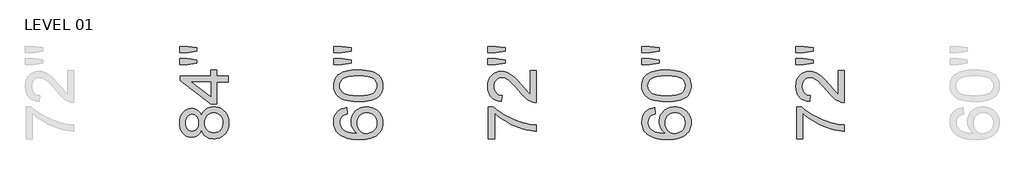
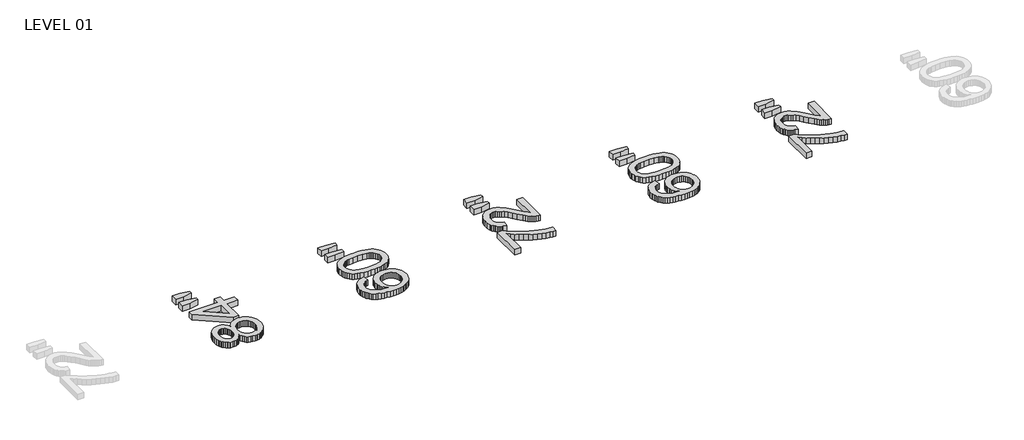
# One storey, part 2 of 3: 5 proxies.
"""IFC4 building model written with IfcOpenShell, lengths in millimetres."""

from ifc_helpers import new_model, si_unit, origin, origin_with_axes, place, context, project, spatial, polyline, outline, extrude, element, save

model = new_model("IFC4")

# Units and contexts
model_context = context("Model", 3, world=origin())
ifc_project = project(units=[si_unit("LENGTHUNIT", "METRE", prefix="MILLI")], contexts=[model_context])

# Site, building, storey
site = spatial("IfcSite", under=ifc_project)
building = spatial("IfcBuilding", under=site)
storey = spatial("IfcBuildingStorey", under=building, Name="LEVEL 01", Elevation=0.0)

# Proxies
placement = place(None, origin())
element("IfcBuildingElementProxy", 1, Name="48\" Arial", ObjectType="48\" Arial", at=placement, inside=storey, context=model_context, shape_type="SweptSolid", body=[
    extrude(outline(polyline([(-15966.6410778, -45184.9034966), (-15984.6653086, -45228.0682322), (-16006.2064624, -45265.2432081), (-16031.2645393, -45296.4284245), (-16059.8395393, -45321.6238812), (-16091.6567028, -45341.049386), (-16126.4412701, -45354.9247466), (-16164.1932413, -45363.2499629), (-16204.9126163, -45366.025035), (-16266.1107413, -45359.9803235), (-16294.8002244, -45352.4244341), (-16322.2166547, -45341.8461889), (-16348.3600321, -45328.2455879), (-16373.2303566, -45311.6226312), (-16419.151847, -45269.3096504), (-16439.4840586, -45244.1279317), (-16457.1053086, -45216.9404677), (-16472.015597, -45187.7472586), (-16484.214924, -45156.5483043), (-16500.4806932, -45088.13316), (-16505.9026163, -45011.695035), (-16500.352472, -44934.8905639), (-16483.7020393, -44865.962535), (-16471.2142148, -44834.4521865), (-16455.9513182, -44804.9109485), (-16437.9133494, -44777.3388211), (-16417.1003086, -44751.7358043), (-16370.2812701, -44708.6534966), (-16345.0583374, -44691.7283043), (-16318.6264624, -44677.8804197), (-16290.9856451, -44667.1098427), (-16262.1358855, -44659.4165735), (-16232.0771836, -44654.800612), (-16200.8095393, -44653.2619581), (-16161.528073, -44656.0003956), (-16124.8659816, -44664.2157081), (-16090.8232653, -44677.9078956), (-16059.399924, -44697.0769581), (-16031.0172557, -44721.8144822), (-16006.0965586, -44752.2120543), (-15984.6378326, -44788.2696745), (-15966.6410778, -44829.9873427), (-15945.6586018, -44780.6679918), (-15919.0527124, -44737.6314774), (-15886.8234095, -44700.8777995), (-15848.9706932, -44670.4069581), (-15806.3371595, -44646.4937129), (-15759.7654047, -44629.4128235), (-15709.2554288, -44619.1642899), (-15654.8072316, -44615.748112), (-15616.6064865, -44617.4424629), (-15579.9627124, -44622.5255158), (-15544.8759095, -44630.9972706), (-15511.3460778, -44642.8577274), (-15479.3732172, -44658.106886), (-15448.9573278, -44676.7447466), (-15420.0984095, -44698.7713091), (-15392.7964624, -44724.1865735), (-15367.9307172, -44752.3677514), (-15346.3804047, -44782.6920543), (-15328.1455249, -44815.1594822), (-15313.2260778, -44849.770035), (-15301.6220634, -44886.5237129), (-15293.3334816, -44925.4205158), (-15288.3603326, -44966.4604437), (-15286.7026163, -45009.6434966), (-15288.3672016, -45052.8265495), (-15293.3609576, -45093.8664774), (-15301.6838843, -45132.7632802), (-15313.3359816, -45169.5169581), (-15328.3172497, -45204.127511), (-15346.6276884, -45236.5949389), (-15368.2672978, -45266.9192418), (-15393.2360778, -45295.1004197), (-15420.6914324, -45320.5156841), (-15449.7907653, -45342.5422466), (-15480.5340766, -45361.1801072), (-15512.9213663, -45376.4292658), (-15546.9526343, -45388.2897225), (-15582.6278807, -45396.7614774), (-15619.9471054, -45401.8445302), (-15658.9103086, -45403.5388812), (-15715.8405009, -45399.9853235), (-15767.934924, -45389.3246504), (-15815.1935778, -45371.556862), (-15857.6164624, -45346.6819581), (-15894.4342509, -45315.2494581), (-15924.8776163, -45277.8088812), (-15948.9465586, -45234.3602274), (-15966.6410778, -45184.9034966)]), holes=[polyline([(-16200.5164624, -45215.9696504), (-16166.1165586, -45212.6450591), (-16135.0137701, -45202.671285), (-16107.208097, -45186.0483283), (-16082.6995393, -45162.7761889), (-16062.6970393, -45133.1479437), (-16048.4095393, -45097.4566697), (-16039.8370393, -45055.7023668), (-16036.9795393, -45007.885035), (-16039.818722, -44961.2491697), (-16048.3362701, -44920.4015735), (-16062.5321836, -44885.3422466), (-16082.4064624, -44856.0711889), (-16106.4021355, -44832.9913812), (-16132.9622316, -44816.5058043), (-16162.0867509, -44806.6144581), (-16193.7756932, -44803.3173427), (-16226.7010538, -44806.724362), (-16256.8971355, -44816.9454197), (-16284.3639384, -44833.9805158), (-16309.1014624, -44857.8296504), (-16329.5527365, -44887.7601312), (-16344.1607893, -44923.0392658), (-16352.9256211, -44963.6670543), (-16355.8472316, -45009.6434966), (-16352.9897316, -45055.9771264), (-16344.4172316, -45096.7972466), (-16330.1297316, -45132.1038572), (-16310.1272316, -45161.8969581), (-16286.1315586, -45185.553761), (-16259.8645393, -45202.4514774), (-16231.326174, -45212.5901072), (-16200.5164624, -45215.9696504)]), polyline([(-15664.1856932, -45253.4834966), (-15606.7792509, -45247.2189774), (-15551.2045393, -45228.4254197), (-15525.4229288, -45213.4876552), (-15502.7369432, -45193.7324389), (-15483.1465826, -45169.1597706), (-15466.651847, -45139.7696504), (-15453.5732893, -45107.714362), (-15444.2314624, -45075.1461889), (-15438.6263663, -45042.0651312), (-15436.7580009, -45008.4711889), (-15440.6870634, -44954.2153235), (-15452.4742509, -44906.3338812), (-15472.1195634, -44864.826862), (-15499.6230009, -44829.6942658), (-15533.1894672, -44801.7420543), (-15571.0238663, -44781.7761889), (-15613.126198, -44769.7966697), (-15659.4964624, -44765.8034966), (-15706.6085778, -44769.9248908), (-15749.4710778, -44782.2890735), (-15788.0839624, -44802.8960447), (-15822.4472316, -44831.7458043), (-15850.6558855, -44867.8309004), (-15870.804924, -44910.1438812), (-15882.894347, -44958.6847466), (-15886.9241547, -45013.4534966), (-15882.949299, -45066.9125591), (-15871.0247316, -45114.1620543), (-15851.1504528, -45155.2019822), (-15823.3264624, -45190.0323427), (-15789.5310297, -45217.7922225), (-15751.742424, -45237.6207081), (-15709.9606451, -45249.5177995), (-15664.1856932, -45253.4834966)])]), origin_with_axes(), (0.0, 0.0, 1.0), 152.4),
    extrude(outline(polyline([(-15305.4595393, -43996.7696504), (-15586.8133855, -43996.7696504), (-15586.8133855, -44540.7204197), (-15736.8687701, -44540.7204197), (-16487.1456932, -43959.2558043), (-16487.1456932, -43846.7142658), (-15736.8687701, -43846.7142658), (-15736.8687701, -43696.6588812), (-15586.8133855, -43696.6588812), (-15586.8133855, -43846.7142658), (-15305.4595393, -43846.7142658), (-15305.4595393, -43996.7696504)]), holes=[polyline([(-15736.8687701, -43996.7696504), (-16200.5164624, -43996.7696504), (-15736.8687701, -44356.0819581), (-15736.8687701, -43996.7696504)])]), origin_with_axes(), (0.0, 0.0, 1.0), 152.4),
    extrude(outline(polyline([(-16074.4933855, -43229.4942658), (-16306.3172316, -43265.2496504), (-16505.9026163, -43265.2496504), (-16505.9026163, -43115.1942658), (-16306.3172316, -43115.1942658), (-16074.4933855, -43150.3634966), (-16074.4933855, -43229.4942658)])), origin_with_axes(), (0.0, 0.0, 1.0), 152.4),
    extrude(outline(polyline([(-16074.4933855, -43528.7258043), (-16306.3172316, -43565.3604197), (-16505.9026163, -43565.3604197), (-16505.9026163, -43415.305035), (-16306.3172316, -43415.305035), (-16074.4933855, -43448.1296504), (-16074.4933855, -43528.7258043)])), origin_with_axes(), (0.0, 0.0, 1.0), 152.4),
])
element("IfcBuildingElementProxy", 2, Name="48\" Arial", ObjectType="48\" Arial", at=placement, inside=storey, context=model_context, shape_type="SweptSolid", body=[
    extrude(outline(polyline([(-12377.034924, -44634.505035), (-12358.2780009, -44784.5604197), (-12398.411222, -44795.5874389), (-12432.6462701, -44808.7392658), (-12460.9831451, -44824.0159004), (-12483.421847, -44841.4173427), (-12510.7329528, -44873.6741216), (-12530.2408855, -44909.4844581), (-12541.9456451, -44948.8483524), (-12545.8472316, -44991.7658043), (-12543.5758855, -45027.1548427), (-12536.761847, -45061.518112), (-12525.4051163, -45094.855612), (-12509.5056932, -45127.1673427), (-12483.5042749, -45156.6490495), (-12452.0992509, -45183.5480158), (-12415.2906211, -45207.8642418), (-12373.0783855, -45229.5977274), (-12322.6783134, -45247.5944822), (-12261.306174, -45260.7005158), (-12188.9619672, -45268.9158283), (-12105.6456932, -45272.2404197), (-12143.3518711, -45243.6379437), (-12175.8742509, -45212.0497466), (-12203.2128326, -45177.4758283), (-12225.3676163, -45139.9161889), (-12242.4851403, -45100.3782802), (-12254.7119432, -45059.8695543), (-12262.0480249, -45018.390011), (-12264.4933855, -44975.9396504), (-12262.8219312, -44939.1951312), (-12257.8075682, -44903.8427274), (-12249.4502966, -44869.8824389), (-12237.7501163, -44837.3142658), (-12222.7070273, -44806.1382081), (-12204.3210297, -44776.3542658), (-12182.5921235, -44747.9624389), (-12157.5203086, -44720.9627274), (-12129.8016427, -44696.3030519), (-12100.1321836, -44674.9313331), (-12068.5119312, -44656.8475711), (-12034.9408855, -44642.0517658), (-11999.4190466, -44630.5439173), (-11961.9464143, -44622.3240254), (-11922.5229889, -44617.3920903), (-11881.1487701, -44615.748112), (-11826.4441307, -44618.843737), (-11773.6994432, -44628.130612), (-11722.9147076, -44643.608737), (-11674.089924, -44665.278112), (-11629.0476643, -44692.36941), (-11589.6105009, -44724.1133043), (-11555.7784336, -44760.5097947), (-11527.5514624, -44801.5588812), (-11505.3050922, -44846.3813331), (-11489.4148278, -44894.0979197), (-11479.8806691, -44944.7086408), (-11476.7026163, -44998.2134966), (-11478.8091066, -45044.0227935), (-11485.1285778, -45087.6660687), (-11495.6610297, -45129.1433223), (-11510.4064624, -45168.4545543), (-11529.3648759, -45205.5997646), (-11552.5362701, -45240.5789533), (-11579.9206451, -45273.3921204), (-11611.5180009, -45304.0392658), (-11647.9511259, -45331.755642), (-11689.8428086, -45355.7765014), (-11737.193049, -45376.1018439), (-11790.001847, -45392.7316697), (-11848.2692028, -45405.6659786), (-11911.9951163, -45414.9047706), (-11981.1795874, -45420.4480459), (-12055.8226163, -45422.2958043), (-12139.3999119, -45420.2442658), (-12217.0698759, -45414.0896504), (-12288.8325081, -45403.8319581), (-12354.6878086, -45389.4711889), (-12414.6357773, -45371.0073427), (-12468.6764143, -45348.4404197), (-12516.8097196, -45321.7704197), (-12559.0356932, -45290.9973427), (-12591.1138783, -45261.1080759), (-12618.914972, -45228.7368139), (-12642.4389744, -45193.8835567), (-12661.6858855, -45156.5483043), (-12676.6557052, -45116.7310567), (-12687.3484336, -45074.4318139), (-12693.7640706, -45029.6505759), (-12695.9026163, -44982.3873427), (-12690.6089143, -44913.2761408), (-12674.7278086, -44850.722535), (-12648.259299, -44794.7265254), (-12611.2033855, -44745.288112), (-12564.8056451, -44703.7444581), (-12510.3116547, -44671.4327274), (-12447.7214143, -44648.3529197), (-12377.034924, -44634.505035)]), holes=[polyline([(-11883.4933855, -45272.2404197), (-11849.8719672, -45270.0698187), (-11817.0015586, -45263.5580158), (-11784.8821595, -45252.705011), (-11753.5137701, -45237.5108043), (-11724.3709336, -45218.7172466), (-11698.9281932, -45197.0661889), (-11677.185549, -45172.5576312), (-11659.1430009, -45145.1915735), (-11644.9745634, -45115.1420302), (-11634.8542509, -45082.5830158), (-11628.7820634, -45047.5145302), (-11626.7580009, -45009.9365735), (-11630.9526643, -44957.7780399), (-11643.5366547, -44910.9132081), (-11664.509972, -44869.3420783), (-11693.8726163, -44833.0646504), (-11730.4339624, -44803.6378956), (-11773.0033855, -44782.618785), (-11821.5808855, -44770.0073187), (-11876.1664624, -44765.8034966), (-11928.618073, -44769.9523668), (-11975.1898278, -44782.3989774), (-12015.8817268, -44803.1433283), (-12050.6937701, -44832.1854197), (-12078.5818711, -44868.5727514), (-12098.5019432, -44911.3528235), (-12110.4539865, -44960.525636), (-12114.4380009, -45016.0911889), (-12110.4539865, -45067.5536649), (-12098.5019432, -45114.9680158), (-12078.5818711, -45158.3342418), (-12050.6937701, -45197.6523427), (-12016.3396595, -45230.2846264), (-11977.0215586, -45253.5934004), (-11932.7394672, -45267.5786649), (-11883.4933855, -45272.2404197)])]), origin_with_axes(), (0.0, 0.0, 1.0), 152.4),
    extrude(outline(polyline([(-12086.0095393, -44484.4496504), (-12186.9470634, -44481.6928956), (-12278.158097, -44473.4226312), (-12359.6426403, -44459.6388572), (-12431.4006932, -44440.3415735), (-12494.0184095, -44415.6132081), (-12548.0819432, -44385.5361889), (-12593.5912941, -44350.1105158), (-12630.5464624, -44309.3361889), (-12659.1397797, -44263.0758283), (-12679.5635778, -44211.1920543), (-12691.8178566, -44153.6848668), (-12695.9026163, -44090.5542658), (-12693.4847316, -44043.1124389), (-12686.2310778, -43998.0884966), (-12674.1416547, -43955.4824389), (-12657.2164624, -43915.2942658), (-12635.7394191, -43878.4947947), (-12609.9944432, -43846.0548427), (-12579.9815345, -43817.97441), (-12545.7006932, -43794.2534966), (-12507.289299, -43773.7014774), (-12464.8847316, -43755.1277274), (-12368.0960778, -43723.915035), (-12311.1750441, -43711.9904677), (-12245.1869432, -43703.4729197), (-12170.1317749, -43698.3623908), (-12086.0095393, -43696.6588812), (-11985.7131211, -43699.38816), (-11894.9600201, -43707.5759966), (-11813.7502365, -43721.2223908), (-11742.0837701, -43740.3273427), (-11679.4385778, -43764.8633764), (-11625.2926163, -43794.8030158), (-11579.6458855, -43830.146261), (-11542.4983855, -43870.893112), (-11513.7127365, -43917.2084245), (-11493.1515586, -43969.2570543), (-11480.8148518, -44027.0390014), (-11476.7026163, -44090.5542658), (-11478.4885538, -44133.0504197), (-11483.8463663, -44173.2019581), (-11492.7760538, -44211.0088812), (-11505.2776163, -44246.4711889), (-11521.3510538, -44279.5888812), (-11540.9963663, -44310.3619581), (-11564.2135538, -44338.7904197), (-11591.0026163, -44364.8742658), (-11633.4209216, -44392.8997466), (-11681.3985297, -44417.1884966), (-11734.9354408, -44437.7405158), (-11794.0316547, -44454.5558043), (-11858.6871716, -44467.634362), (-11928.9019913, -44476.9761889), (-12004.6761139, -44482.581285), (-12086.0095393, -44484.4496504)]), holes=[polyline([(-12086.3026163, -44334.3942658), (-11955.8559095, -44329.998112), (-11850.2657893, -44316.8096504), (-11806.7919492, -44306.9183043), (-11769.5322557, -44294.8288812), (-11738.4867088, -44280.5413812), (-11713.6553086, -44264.0558043), (-11675.6377365, -44226.835035), (-11648.4823278, -44185.5111889), (-11632.1890826, -44140.0842658), (-11626.7580009, -44090.5542658), (-11632.2073999, -44041.0242658), (-11648.555597, -43995.5973427), (-11675.8025922, -43954.2734966), (-11713.9483855, -43917.0527274), (-11738.839317, -43900.5671504), (-11769.9169191, -43886.2796504), (-11807.181192, -43874.1902274), (-11850.6321355, -43864.2988812), (-11956.0940345, -43851.1104197), (-12086.3026163, -43846.7142658), (-12213.2965105, -43850.9638812), (-12317.027424, -43863.7127274), (-12360.1692629, -43873.274362), (-12397.4953566, -43884.9608043), (-12429.0057052, -43898.7720543), (-12454.7003086, -43914.708112), (-12494.5770874, -43951.3060927), (-12523.0605009, -43993.1061889), (-12540.150549, -44040.1084004), (-12545.8472316, -44092.3127274), (-12540.8282893, -44141.586285), (-12525.7714624, -44186.2438812), (-12500.6767509, -44226.2855158), (-12465.5441547, -44261.7111889), (-12437.1156932, -44278.746285), (-12403.2653086, -44293.510035), (-12363.9930009, -44306.0024389), (-12319.2987701, -44316.2234966), (-12213.6445393, -44329.8515735), (-12086.3026163, -44334.3942658)])]), origin_with_axes(), (0.0, 0.0, 1.0), 152.4),
    extrude(outline(polyline([(-12264.4933855, -43229.4942658), (-12496.3172316, -43265.2496504), (-12695.9026163, -43265.2496504), (-12695.9026163, -43115.1942658), (-12496.3172316, -43115.1942658), (-12264.4933855, -43150.3634966), (-12264.4933855, -43229.4942658)])), origin_with_axes(), (0.0, 0.0, 1.0), 152.4),
    extrude(outline(polyline([(-12264.4933855, -43528.7258043), (-12496.3172316, -43565.3604197), (-12695.9026163, -43565.3604197), (-12695.9026163, -43415.305035), (-12496.3172316, -43415.305035), (-12264.4933855, -43448.1296504), (-12264.4933855, -43528.7258043)])), origin_with_axes(), (0.0, 0.0, 1.0), 152.4),
])
element("IfcBuildingElementProxy", 3, Name="48\" Arial", ObjectType="48\" Arial", at=placement, inside=storey, context=model_context, shape_type="SweptSolid", body=[
    extrude(outline(polyline([(-8717.0903086, -45403.5388812), (-8867.1456932, -45403.5388812), (-8867.1456932, -44615.748112), (-8745.811847, -44615.748112), (-8679.5856211, -44672.0280399), (-8603.706174, -44728.0332081), (-8518.1735057, -44783.7636168), (-8422.9876163, -44839.2192658), (-8322.2698999, -44891.3961168), (-8220.1417509, -44937.2901312), (-8116.6031691, -44976.9013091), (-8011.6541547, -45010.2296504), (-7935.4358374, -45030.085612), (-7855.6639624, -45045.985035), (-7772.3385297, -45057.9279197), (-7685.4595393, -45065.9142658), (-7685.4595393, -45215.9696504), (-7759.1500682, -45211.2529437), (-7840.1308855, -45199.7405158), (-7928.4019913, -45181.4323668), (-8023.9633855, -45156.3284966), (-8122.2815345, -45124.7219822), (-8218.8229047, -45086.9059004), (-8313.5874961, -45042.8802514), (-8406.5753086, -44992.645035), (-8495.0570634, -44938.4624389), (-8576.3034816, -44882.5946504), (-8650.3145634, -44825.0416697), (-8717.0903086, -44765.8034966), (-8717.0903086, -45403.5388812)])), origin_with_axes(), (0.0, 0.0, 1.0), 152.4),
    extrude(outline(polyline([(-7835.514924, -43715.4158043), (-7685.4595393, -43715.4158043), (-7685.4595393, -44503.2065735), (-7738.2866547, -44499.9094581), (-7788.9156932, -44487.0873427), (-7829.6442268, -44470.729987), (-7869.7682893, -44450.0863812), (-7909.2878807, -44425.1565254), (-7948.2030009, -44395.9404197), (-7988.0339865, -44360.6796024), (-8030.301174, -44317.615612), (-8122.1441547, -44208.078112), (-8198.7654528, -44119.019362), (-8265.9716547, -44046.153112), (-8323.7627605, -43989.479362), (-8372.1387701, -43948.998112), (-8415.5141547, -43920.661237), (-8458.3033855, -43900.420612), (-8500.5064624, -43888.276237), (-8542.1233855, -43884.228112), (-8581.2766307, -43888.0472706), (-8617.2609816, -43899.5047466), (-8650.0764384, -43918.6005399), (-8679.7230009, -43945.3346504), (-8704.2773518, -43978.2233764), (-8721.816174, -44015.7830158), (-8732.3394672, -44058.0135687), (-8735.8472316, -44104.915035), (-8732.4218951, -44154.3259725), (-8722.1458855, -44198.5164774), (-8705.0192028, -44237.4865495), (-8681.041847, -44271.2361889), (-8651.0197797, -44298.538136), (-8615.7589624, -44318.1651312), (-8575.2593951, -44330.1171745), (-8529.5210778, -44334.3942658), (-8548.2780009, -44484.4496504), (-8625.7418951, -44471.5451072), (-8660.8058014, -44461.1294281), (-8693.424347, -44448.0714774), (-8723.5975321, -44432.371255), (-8751.3253566, -44414.028761), (-8776.6078206, -44393.0439954), (-8799.444924, -44369.4169581), (-8819.7084456, -44343.4040915), (-8837.2701643, -44315.2618379), (-8852.1300802, -44284.9901973), (-8864.2881932, -44252.5891697), (-8880.4990105, -44181.3989533), (-8885.9026163, -44101.6911889), (-8879.8945393, -44021.2690495), (-8872.3844432, -43984.3757021), (-8861.8703086, -43949.6941697), (-8848.3521355, -43917.2244521), (-8831.829924, -43886.9665495), (-8812.303674, -43858.9204617), (-8789.7733855, -43833.0861889), (-8765.0175441, -43809.9033463), (-8738.8146355, -43789.8115495), (-8711.1646595, -43772.8107983), (-8682.0676163, -43758.9010927), (-8651.5235057, -43748.0824329), (-8619.5323278, -43740.3548187), (-8586.0940826, -43735.7182502), (-8551.2087701, -43734.1727274), (-8515.1694672, -43735.8396024), (-8479.4415586, -43740.8402274), (-8444.0250441, -43749.1746024), (-8408.919924, -43760.8427274), (-8373.5125682, -43776.3849629), (-8337.189347, -43796.3416697), (-8261.7953086, -43849.4984966), (-8219.9860538, -43886.1789052), (-8171.7840586, -43934.234362), (-8056.201847, -44064.4704197), (-7911.8614624, -44237.0927274), (-7873.798097, -44274.5333043), (-7835.514924, -44304.7934966), (-7835.514924, -43715.4158043)])), origin_with_axes(), (0.0, 0.0, 1.0), 152.4),
    extrude(outline(polyline([(-8454.4933855, -43528.7258043), (-8686.3172316, -43565.3604197), (-8885.9026163, -43565.3604197), (-8885.9026163, -43415.305035), (-8686.3172316, -43415.305035), (-8454.4933855, -43448.1296504), (-8454.4933855, -43528.7258043)])), origin_with_axes(), (0.0, 0.0, 1.0), 152.4),
    extrude(outline(polyline([(-8454.4933855, -43229.4942658), (-8686.3172316, -43265.2496504), (-8885.9026163, -43265.2496504), (-8885.9026163, -43115.1942658), (-8686.3172316, -43115.1942658), (-8454.4933855, -43150.3634966), (-8454.4933855, -43229.4942658)])), origin_with_axes(), (0.0, 0.0, 1.0), 152.4),
])
element("IfcBuildingElementProxy", 4, Name="48\" Arial", ObjectType="48\" Arial", at=placement, inside=storey, context=model_context, shape_type="SweptSolid", body=[
    extrude(outline(polyline([(-4757.034924, -44634.505035), (-4738.2780009, -44784.5604197), (-4778.411222, -44795.5874389), (-4812.6462701, -44808.7392658), (-4840.9831451, -44824.0159004), (-4863.421847, -44841.4173427), (-4890.7329528, -44873.6741216), (-4910.2408855, -44909.4844581), (-4921.9456451, -44948.8483524), (-4925.8472316, -44991.7658043), (-4923.5758855, -45027.1548427), (-4916.761847, -45061.518112), (-4905.4051163, -45094.855612), (-4889.5056932, -45127.1673427), (-4863.5042749, -45156.6490495), (-4832.0992509, -45183.5480158), (-4795.2906211, -45207.8642418), (-4753.0783855, -45229.5977274), (-4702.6783134, -45247.5944822), (-4641.306174, -45260.7005158), (-4568.9619672, -45268.9158283), (-4485.6456932, -45272.2404197), (-4523.3518711, -45243.6379437), (-4555.8742509, -45212.0497466), (-4583.2128326, -45177.4758283), (-4605.3676163, -45139.9161889), (-4622.4851403, -45100.3782802), (-4634.7119432, -45059.8695543), (-4642.0480249, -45018.390011), (-4644.4933855, -44975.9396504), (-4642.8219312, -44939.1951312), (-4637.8075682, -44903.8427274), (-4629.4502966, -44869.8824389), (-4617.7501163, -44837.3142658), (-4602.7070273, -44806.1382081), (-4584.3210297, -44776.3542658), (-4562.5921235, -44747.9624389), (-4537.5203086, -44720.9627274), (-4509.8016427, -44696.3030519), (-4480.1321836, -44674.9313331), (-4448.5119312, -44656.8475711), (-4414.9408855, -44642.0517658), (-4379.4190466, -44630.5439173), (-4341.9464143, -44622.3240254), (-4302.5229889, -44617.3920903), (-4261.1487701, -44615.748112), (-4206.4441307, -44618.843737), (-4153.6994432, -44628.130612), (-4102.9147076, -44643.608737), (-4054.089924, -44665.278112), (-4009.0476643, -44692.36941), (-3969.6105009, -44724.1133043), (-3935.7784336, -44760.5097947), (-3907.5514624, -44801.5588812), (-3885.3050922, -44846.3813331), (-3869.4148278, -44894.0979197), (-3859.8806691, -44944.7086408), (-3856.7026163, -44998.2134966), (-3858.8091066, -45044.0227935), (-3865.1285778, -45087.6660687), (-3875.6610297, -45129.1433223), (-3890.4064624, -45168.4545543), (-3909.3648759, -45205.5997646), (-3932.5362701, -45240.5789533), (-3959.9206451, -45273.3921204), (-3991.5180009, -45304.0392658), (-4027.9511259, -45331.755642), (-4069.8428086, -45355.7765014), (-4117.193049, -45376.1018439), (-4170.001847, -45392.7316697), (-4228.2692028, -45405.6659786), (-4291.9951163, -45414.9047706), (-4361.1795874, -45420.4480459), (-4435.8226163, -45422.2958043), (-4519.3999119, -45420.2442658), (-4597.0698759, -45414.0896504), (-4668.8325081, -45403.8319581), (-4734.6878086, -45389.4711889), (-4794.6357773, -45371.0073427), (-4848.6764143, -45348.4404197), (-4896.8097196, -45321.7704197), (-4939.0356932, -45290.9973427), (-4971.1138783, -45261.1080759), (-4998.914972, -45228.7368139), (-5022.4389744, -45193.8835567), (-5041.6858855, -45156.5483043), (-5056.6557052, -45116.7310567), (-5067.3484336, -45074.4318139), (-5073.7640706, -45029.6505759), (-5075.9026163, -44982.3873427), (-5070.6089143, -44913.2761408), (-5054.7278086, -44850.722535), (-5028.259299, -44794.7265254), (-4991.2033855, -44745.288112), (-4944.8056451, -44703.7444581), (-4890.3116547, -44671.4327274), (-4827.7214143, -44648.3529197), (-4757.034924, -44634.505035)]), holes=[polyline([(-4263.4933855, -45272.2404197), (-4229.8719672, -45270.0698187), (-4197.0015586, -45263.5580158), (-4164.8821595, -45252.705011), (-4133.5137701, -45237.5108043), (-4104.3709336, -45218.7172466), (-4078.9281932, -45197.0661889), (-4057.185549, -45172.5576312), (-4039.1430009, -45145.1915735), (-4024.9745634, -45115.1420302), (-4014.8542509, -45082.5830158), (-4008.7820634, -45047.5145302), (-4006.7580009, -45009.9365735), (-4010.9526643, -44957.7780399), (-4023.5366547, -44910.9132081), (-4044.509972, -44869.3420783), (-4073.8726163, -44833.0646504), (-4110.4339624, -44803.6378956), (-4153.0033855, -44782.618785), (-4201.5808855, -44770.0073187), (-4256.1664624, -44765.8034966), (-4308.618073, -44769.9523668), (-4355.1898278, -44782.3989774), (-4395.8817268, -44803.1433283), (-4430.6937701, -44832.1854197), (-4458.5818711, -44868.5727514), (-4478.5019432, -44911.3528235), (-4490.4539865, -44960.525636), (-4494.4380009, -45016.0911889), (-4490.4539865, -45067.5536649), (-4478.5019432, -45114.9680158), (-4458.5818711, -45158.3342418), (-4430.6937701, -45197.6523427), (-4396.3396595, -45230.2846264), (-4357.0215586, -45253.5934004), (-4312.7394672, -45267.5786649), (-4263.4933855, -45272.2404197)])]), origin_with_axes(), (0.0, 0.0, 1.0), 152.4),
    extrude(outline(polyline([(-4466.0095393, -44484.4496504), (-4566.9470634, -44481.6928956), (-4658.158097, -44473.4226312), (-4739.6426403, -44459.6388572), (-4811.4006932, -44440.3415735), (-4874.0184095, -44415.6132081), (-4928.0819432, -44385.5361889), (-4973.5912941, -44350.1105158), (-5010.5464624, -44309.3361889), (-5039.1397797, -44263.0758283), (-5059.5635778, -44211.1920543), (-5071.8178566, -44153.6848668), (-5075.9026163, -44090.5542658), (-5073.4847316, -44043.1124389), (-5066.2310778, -43998.0884966), (-5054.1416547, -43955.4824389), (-5037.2164624, -43915.2942658), (-5015.7394191, -43878.4947947), (-4989.9944432, -43846.0548427), (-4959.9815345, -43817.97441), (-4925.7006932, -43794.2534966), (-4887.289299, -43773.7014774), (-4844.8847316, -43755.1277274), (-4748.0960778, -43723.915035), (-4691.1750441, -43711.9904677), (-4625.1869432, -43703.4729197), (-4550.1317749, -43698.3623908), (-4466.0095393, -43696.6588812), (-4365.7131211, -43699.38816), (-4274.9600201, -43707.5759966), (-4193.7502365, -43721.2223908), (-4122.0837701, -43740.3273427), (-4059.4385778, -43764.8633764), (-4005.2926163, -43794.8030158), (-3959.6458855, -43830.146261), (-3922.4983855, -43870.893112), (-3893.7127365, -43917.2084245), (-3873.1515586, -43969.2570543), (-3860.8148518, -44027.0390014), (-3856.7026163, -44090.5542658), (-3858.4885538, -44133.0504197), (-3863.8463663, -44173.2019581), (-3872.7760538, -44211.0088812), (-3885.2776163, -44246.4711889), (-3901.3510538, -44279.5888812), (-3920.9963663, -44310.3619581), (-3944.2135538, -44338.7904197), (-3971.0026163, -44364.8742658), (-4013.4209216, -44392.8997466), (-4061.3985297, -44417.1884966), (-4114.9354408, -44437.7405158), (-4174.0316547, -44454.5558043), (-4238.6871716, -44467.634362), (-4308.9019913, -44476.9761889), (-4384.6761139, -44482.581285), (-4466.0095393, -44484.4496504)]), holes=[polyline([(-4466.3026163, -44334.3942658), (-4335.8559095, -44329.998112), (-4230.2657893, -44316.8096504), (-4186.7919492, -44306.9183043), (-4149.5322557, -44294.8288812), (-4118.4867088, -44280.5413812), (-4093.6553086, -44264.0558043), (-4055.6377365, -44226.835035), (-4028.4823278, -44185.5111889), (-4012.1890826, -44140.0842658), (-4006.7580009, -44090.5542658), (-4012.2073999, -44041.0242658), (-4028.555597, -43995.5973427), (-4055.8025922, -43954.2734966), (-4093.9483855, -43917.0527274), (-4118.839317, -43900.5671504), (-4149.9169191, -43886.2796504), (-4187.181192, -43874.1902274), (-4230.6321355, -43864.2988812), (-4336.0940345, -43851.1104197), (-4466.3026163, -43846.7142658), (-4593.2965105, -43850.9638812), (-4697.027424, -43863.7127274), (-4740.1692629, -43873.274362), (-4777.4953566, -43884.9608043), (-4809.0057052, -43898.7720543), (-4834.7003086, -43914.708112), (-4874.5770874, -43951.3060927), (-4903.0605009, -43993.1061889), (-4920.150549, -44040.1084004), (-4925.8472316, -44092.3127274), (-4920.8282893, -44141.586285), (-4905.7714624, -44186.2438812), (-4880.6767509, -44226.2855158), (-4845.5441547, -44261.7111889), (-4817.1156932, -44278.746285), (-4783.2653086, -44293.510035), (-4743.9930009, -44306.0024389), (-4699.2987701, -44316.2234966), (-4593.6445393, -44329.8515735), (-4466.3026163, -44334.3942658)])]), origin_with_axes(), (0.0, 0.0, 1.0), 152.4),
    extrude(outline(polyline([(-4644.4933855, -43229.4942658), (-4876.3172316, -43265.2496504), (-5075.9026163, -43265.2496504), (-5075.9026163, -43115.1942658), (-4876.3172316, -43115.1942658), (-4644.4933855, -43150.3634966), (-4644.4933855, -43229.4942658)])), origin_with_axes(), (0.0, 0.0, 1.0), 152.4),
    extrude(outline(polyline([(-4644.4933855, -43528.7258043), (-4876.3172316, -43565.3604197), (-5075.9026163, -43565.3604197), (-5075.9026163, -43415.305035), (-4876.3172316, -43415.305035), (-4644.4933855, -43448.1296504), (-4644.4933855, -43528.7258043)])), origin_with_axes(), (0.0, 0.0, 1.0), 152.4),
])
element("IfcBuildingElementProxy", 5, Name="48\" Arial", ObjectType="48\" Arial", at=placement, inside=storey, context=model_context, shape_type="SweptSolid", body=[
    extrude(outline(polyline([(-1097.0903086, -45403.5388812), (-1247.1456932, -45403.5388812), (-1247.1456932, -44615.748112), (-1125.811847, -44615.748112), (-1059.5856211, -44672.0280399), (-983.706174, -44728.0332081), (-898.1735057, -44783.7636168), (-802.9876163, -44839.2192658), (-702.2698999, -44891.3961168), (-600.1417509, -44937.2901312), (-496.6031691, -44976.9013091), (-391.6541547, -45010.2296504), (-315.4358374, -45030.085612), (-235.6639624, -45045.985035), (-152.3385297, -45057.9279197), (-65.4595393, -45065.9142658), (-65.4595393, -45215.9696504), (-139.1500682, -45211.2529437), (-220.1308855, -45199.7405158), (-308.4019913, -45181.4323668), (-403.9633855, -45156.3284966), (-502.2815345, -45124.7219822), (-598.8229047, -45086.9059004), (-693.5874961, -45042.8802514), (-786.5753086, -44992.645035), (-875.0570634, -44938.4624389), (-956.3034816, -44882.5946504), (-1030.3145634, -44825.0416697), (-1097.0903086, -44765.8034966), (-1097.0903086, -45403.5388812)])), origin_with_axes(), (0.0, 0.0, 1.0), 152.4),
    extrude(outline(polyline([(-215.514924, -43715.4158043), (-65.4595393, -43715.4158043), (-65.4595393, -44503.2065735), (-118.2866547, -44499.9094581), (-168.9156932, -44487.0873427), (-209.6442268, -44470.729987), (-249.7682893, -44450.0863812), (-289.2878807, -44425.1565254), (-328.2030009, -44395.9404197), (-368.0339865, -44360.6796024), (-410.301174, -44317.615612), (-502.1441547, -44208.078112), (-578.7654528, -44119.019362), (-645.9716547, -44046.153112), (-703.7627605, -43989.479362), (-752.1387701, -43948.998112), (-795.5141547, -43920.661237), (-838.3033855, -43900.420612), (-880.5064624, -43888.276237), (-922.1233855, -43884.228112), (-961.2766307, -43888.0472706), (-997.2609816, -43899.5047466), (-1030.0764384, -43918.6005399), (-1059.7230009, -43945.3346504), (-1084.2773518, -43978.2233764), (-1101.816174, -44015.7830158), (-1112.3394672, -44058.0135687), (-1115.8472316, -44104.915035), (-1112.4218951, -44154.3259725), (-1102.1458855, -44198.5164774), (-1085.0192028, -44237.4865495), (-1061.041847, -44271.2361889), (-1031.0197797, -44298.538136), (-995.7589624, -44318.1651312), (-955.2593951, -44330.1171745), (-909.5210778, -44334.3942658), (-928.2780009, -44484.4496504), (-1005.7418951, -44471.5451072), (-1040.8058014, -44461.1294281), (-1073.424347, -44448.0714774), (-1103.5975321, -44432.371255), (-1131.3253566, -44414.028761), (-1156.6078206, -44393.0439954), (-1179.444924, -44369.4169581), (-1199.7084456, -44343.4040915), (-1217.2701643, -44315.2618379), (-1232.1300802, -44284.9901973), (-1244.2881932, -44252.5891697), (-1260.4990105, -44181.3989533), (-1265.9026163, -44101.6911889), (-1259.8945393, -44021.2690495), (-1252.3844432, -43984.3757021), (-1241.8703086, -43949.6941697), (-1228.3521355, -43917.2244521), (-1211.829924, -43886.9665495), (-1192.303674, -43858.9204617), (-1169.7733855, -43833.0861889), (-1145.0175441, -43809.9033463), (-1118.8146355, -43789.8115495), (-1091.1646595, -43772.8107983), (-1062.0676163, -43758.9010927), (-1031.5235057, -43748.0824329), (-999.5323278, -43740.3548187), (-966.0940826, -43735.7182502), (-931.2087701, -43734.1727274), (-895.1694672, -43735.8396024), (-859.4415586, -43740.8402274), (-824.0250441, -43749.1746024), (-788.919924, -43760.8427274), (-753.5125682, -43776.3849629), (-717.189347, -43796.3416697), (-641.7953086, -43849.4984966), (-599.9860538, -43886.1789052), (-551.7840586, -43934.234362), (-436.201847, -44064.4704197), (-291.8614624, -44237.0927274), (-253.798097, -44274.5333043), (-215.514924, -44304.7934966), (-215.514924, -43715.4158043)])), origin_with_axes(), (0.0, 0.0, 1.0), 152.4),
    extrude(outline(polyline([(-834.4933855, -43229.4942658), (-1066.3172316, -43265.2496504), (-1265.9026163, -43265.2496504), (-1265.9026163, -43115.1942658), (-1066.3172316, -43115.1942658), (-834.4933855, -43150.3634966), (-834.4933855, -43229.4942658)])), origin_with_axes(), (0.0, 0.0, 1.0), 152.4),
    extrude(outline(polyline([(-834.4933855, -43528.7258043), (-1066.3172316, -43565.3604197), (-1265.9026163, -43565.3604197), (-1265.9026163, -43415.305035), (-1066.3172316, -43415.305035), (-834.4933855, -43448.1296504), (-834.4933855, -43528.7258043)])), origin_with_axes(), (0.0, 0.0, 1.0), 152.4),
])

save(model, "model.ifc")
